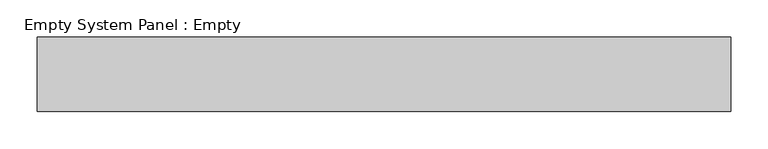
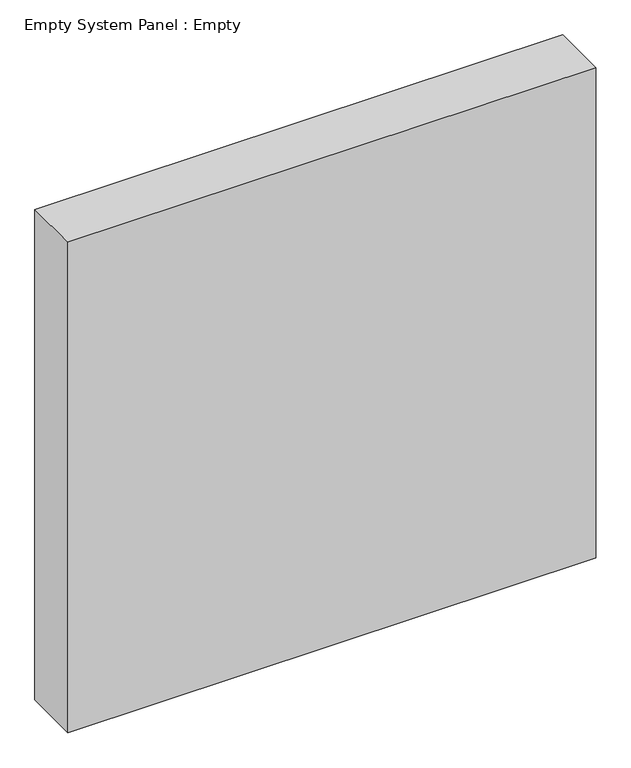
"""IFC4 building model written with IfcOpenShell, lengths in millimetres: plate geometry, Empty System Panel : Empty."""

from ifc_helpers import new_model, si_unit, origin, origin_with_axes, place, context, project, spatial, polyline, outline, extrude, source, transform, mapped, element, save


def empty_system_panel_empty_88f725ae(model_context):
    return source(origin(), model_context, "Body", "SweptSolid", [
        extrude(outline(polyline([(464.2950184, -50.0), (-464.2950184, -50.0), (-464.2950184, 50.0), (464.2950184, 50.0), (464.2950184, -50.0)])), origin_with_axes(), (0.0, 0.0, 1.0), 912.5),
    ])


if __name__ == "__main__":
    model = new_model("IFC4")
    model_context = context("Model", 3, world=origin())
    ifc_project = project(units=[si_unit("LENGTHUNIT", "METRE", prefix="MILLI")], contexts=[model_context])
    site = spatial("IfcSite", under=ifc_project)
    building = spatial("IfcBuilding", under=site)
    placement = place(None, origin())
    empty_system_panel_empty_shape = empty_system_panel_empty_88f725ae(model_context)
    element("IfcPlate", 1, ObjectType="Empty System Panel : Empty", at=placement, inside=building, context=model_context, shape_type="MappedRepresentation", body=[
        mapped(empty_system_panel_empty_shape, transform((0.0, 0.0, 0.0), x_axis=(1.0, 0.0, 0.0), y_axis=(0.0, 1.0, 0.0), z_axis=(0.0, 0.0, 1.0))),
    ])
    save(model, "model.ifc")
